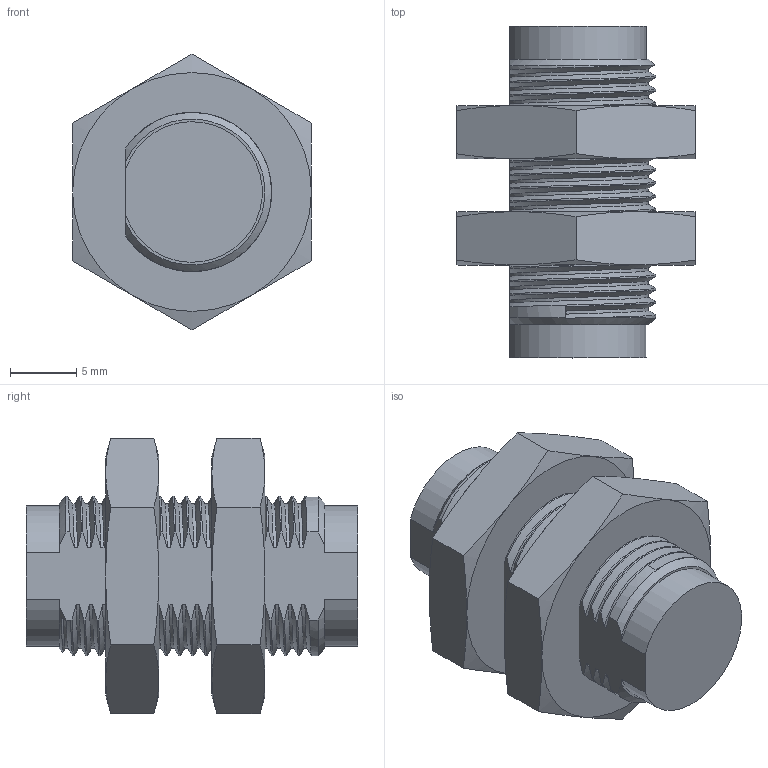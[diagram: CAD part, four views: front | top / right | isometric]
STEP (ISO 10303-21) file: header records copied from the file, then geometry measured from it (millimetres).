
FILE_DESCRIPTION(/* description */ ('Katalogmodell Elobau'),/* implementation_level */ '2;1');
FILE_NAME(/* name */ '122MBV_00_A.stp',/* time_stamp */ '2016-11-30T12:11:09+01:00',/* author */ ('Elobau GmbH & Co. KG'),/* organization */ ('Elobau GmbH & Co. KG'),/* preprocessor_version */ 'ST-DEVELOPER v15',/* originating_system */ 'SIEMENS PLM Software NX 8.5',/* authorisation */ '');
FILE_SCHEMA (('AUTOMOTIVE_DESIGN { 1 0 10303 214 3 1 1 1 }'));
Length unit declared in the file: millimetre
Products named in the file (1): 122MBV.00_A
Bounding box: 18 x 25 x 20.78 mm (x, y, z)
Volume: 4658.9 mm3; surface area: 3032.3 mm2
Topology: 3 solids, 3 shells, 128 faces, 341 edges, 219 vertices
Faces by surface type: cylinder 41, bspline 38, cone 26, plane 23
Entity records: 30786 total; most frequent: CARTESIAN_POINT 28080, ORIENTED_EDGE 682, DIRECTION 344, EDGE_CURVE 341, VERTEX_POINT 219, B_SPLINE_CURVE_WITH_KNOTS 212, ADVANCED_FACE 128, FACE_OUTER_BOUND 128
